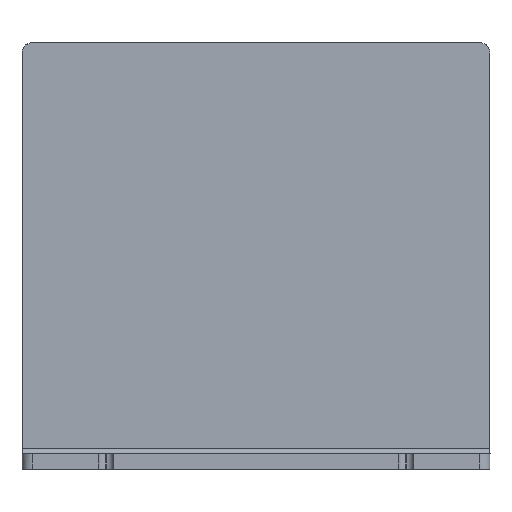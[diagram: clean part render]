
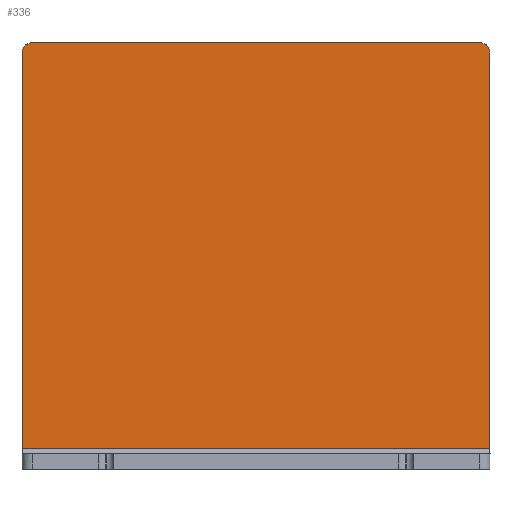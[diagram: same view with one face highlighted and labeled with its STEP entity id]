
A CAD part, left-side view. The second image highlights one B-rep face of the part: STEP entity #336.
In plain terms, the highlighted planar face has unit normal (-1, 0, 0).
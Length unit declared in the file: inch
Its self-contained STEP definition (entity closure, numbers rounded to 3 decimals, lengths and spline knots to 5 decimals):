
#82=PLANE('',#13664);
#336=ADVANCED_FACE('',(#1742),#82,.T.);
#1742=FACE_OUTER_BOUND('',#2469,.T.);
#2469=EDGE_LOOP('',(#4918,#4919,#4920,#4921,#4922,#4923));
#3220=B_SPLINE_CURVE_WITH_KNOTS('',1,(#19179,#19180),.UNSPECIFIED.,.F.,
 .F.,(2,2),(0.,1.),.UNSPECIFIED.);
#3221=B_SPLINE_CURVE_WITH_KNOTS('',1,(#19182,#19183),.UNSPECIFIED.,.F.,
 .F.,(2,2),(0.,1.),.UNSPECIFIED.);
#3222=B_SPLINE_CURVE_WITH_KNOTS('',1,(#19190,#19191),.UNSPECIFIED.,.F.,
 .F.,(2,2),(0.,1.),.UNSPECIFIED.);
#3223=B_SPLINE_CURVE_WITH_KNOTS('',1,(#19192,#19193),.UNSPECIFIED.,.F.,
 .F.,(2,2),(0.,1.),.UNSPECIFIED.);
#4918=ORIENTED_EDGE('',*,*,#10766,.T.);
#4919=ORIENTED_EDGE('',*,*,#10767,.T.);
#4920=ORIENTED_EDGE('',*,*,#10768,.F.);
#4921=ORIENTED_EDGE('',*,*,#10765,.F.);
#4922=ORIENTED_EDGE('',*,*,#10769,.T.);
#4923=ORIENTED_EDGE('',*,*,#10770,.T.);
#9301=VERTEX_POINT('',#19169);
#9303=VERTEX_POINT('',#19178);
#9304=VERTEX_POINT('',#19184);
#9305=VERTEX_POINT('',#19185);
#9306=VERTEX_POINT('',#19189);
#9307=VERTEX_POINT('',#19194);
#10765=EDGE_CURVE('',#9303,#9301,#3220,.T.);
#10766=EDGE_CURVE('',#9304,#9305,#3221,.T.);
#10767=EDGE_CURVE('',#9305,#9306,#12539,.T.);
#10768=EDGE_CURVE('',#9301,#9306,#3222,.T.);
#10769=EDGE_CURVE('',#9303,#9307,#3223,.T.);
#10770=EDGE_CURVE('',#9307,#9304,#12540,.T.);
#12539=(
BOUNDED_CURVE()
B_SPLINE_CURVE(2,(#19186,#19187,#19188),.UNSPECIFIED.,.F.,.F.)
B_SPLINE_CURVE_WITH_KNOTS((3,3),(0.,1.),.UNSPECIFIED.)
CURVE()
GEOMETRIC_REPRESENTATION_ITEM()
RATIONAL_B_SPLINE_CURVE((1.,0.707,1.))
REPRESENTATION_ITEM('')
);
#12540=(
BOUNDED_CURVE()
B_SPLINE_CURVE(2,(#19195,#19196,#19197),.UNSPECIFIED.,.F.,.F.)
B_SPLINE_CURVE_WITH_KNOTS((3,3),(0.,1.),.UNSPECIFIED.)
CURVE()
GEOMETRIC_REPRESENTATION_ITEM()
RATIONAL_B_SPLINE_CURVE((1.,0.707,1.))
REPRESENTATION_ITEM('')
);
#13664=AXIS2_PLACEMENT_3D('',#19198,#14802,#14803);
#14802=DIRECTION('',(-1.,0.,0.));
#14803=DIRECTION('',(0.,0.,1.));
#19169=CARTESIAN_POINT('',(28.46654,4.81121,-2.05894));
#19178=CARTESIAN_POINT('',(28.46654,1.2679,-2.05894));
#19179=CARTESIAN_POINT('',(28.46654,1.2679,-2.05894));
#19180=CARTESIAN_POINT('',(28.46654,4.81121,-2.05894));
#19182=CARTESIAN_POINT('',(28.46654,1.34664,1.01212));
#19183=CARTESIAN_POINT('',(28.46654,4.73247,1.01212));
#19184=CARTESIAN_POINT('',(28.46654,1.34664,1.01212));
#19185=CARTESIAN_POINT('',(28.46654,4.73247,1.01212));
#19186=CARTESIAN_POINT('',(28.46654,4.73247,1.01212));
#19187=CARTESIAN_POINT('',(28.46654,4.81121,1.01212));
#19188=CARTESIAN_POINT('',(28.46654,4.81121,0.93338));
#19189=CARTESIAN_POINT('',(28.46654,4.81121,0.93338));
#19190=CARTESIAN_POINT('',(28.46654,4.81121,-2.05894));
#19191=CARTESIAN_POINT('',(28.46654,4.81121,0.93338));
#19192=CARTESIAN_POINT('',(28.46654,1.2679,-2.05894));
#19193=CARTESIAN_POINT('',(28.46654,1.2679,0.93338));
#19194=CARTESIAN_POINT('',(28.46654,1.2679,0.93338));
#19195=CARTESIAN_POINT('',(28.46654,1.2679,0.93338));
#19196=CARTESIAN_POINT('',(28.46654,1.2679,1.01212));
#19197=CARTESIAN_POINT('',(28.46654,1.34664,1.01212));
#19198=CARTESIAN_POINT('',(28.46654,4.81121,1.01212));
